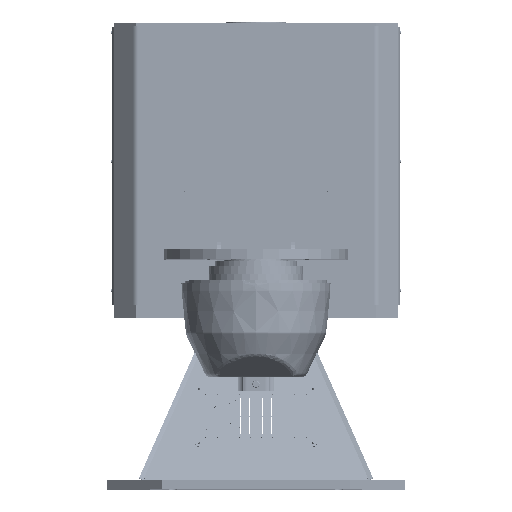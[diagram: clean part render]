
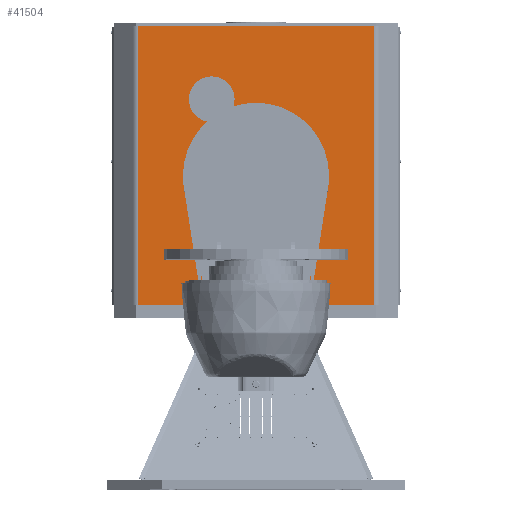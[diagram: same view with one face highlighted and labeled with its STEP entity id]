
A CAD part, top view. The second image highlights one B-rep face of the part: STEP entity #41504.
In plain terms, the highlighted planar face has unit normal (0, 0, 1) as drawn and (0, 0, -1) by its records, which use the part's own axes.
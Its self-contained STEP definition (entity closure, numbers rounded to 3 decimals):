
#40638 = ORIENTED_EDGE ( 'NONE', *, *, #41520, .T. ) ;
#41402 = VERTEX_POINT ( 'NONE', #49305 ) ;
#41420 = EDGE_LOOP ( 'NONE', ( #41534, #41540 ) ) ;
#41424 = VERTEX_POINT ( 'NONE', #49355 ) ;
#41436 = EDGE_CURVE ( 'NONE', #41437, #41402, #49404, .T. ) ;
#41437 = VERTEX_POINT ( 'NONE', #49400 ) ;
#41464 = EDGE_CURVE ( 'NONE', #41466, #41468, #49554, .T. ) ;
#41466 = VERTEX_POINT ( 'NONE', #49535 ) ;
#41468 = VERTEX_POINT ( 'NONE', #49531 ) ;
#41470 = ORIENTED_EDGE ( 'NONE', *, *, #41472, .F. ) ;
#41472 = EDGE_CURVE ( 'NONE', #41468, #41466, #49525, .T. ) ;
#41474 = EDGE_LOOP ( 'NONE', ( #41476, #40638, #41522, #41524 ) ) ;
#41476 = ORIENTED_EDGE ( 'NONE', *, *, #41484, .F. ) ;
#41484 = EDGE_CURVE ( 'NONE', #41486, #41437, #49574, .T. ) ;
#41486 = VERTEX_POINT ( 'NONE', #49567 ) ;
#41504 = ADVANCED_FACE ( 'NONE', ( #49725, #49724, #49722 ), #49819, .F. ) ;
#41520 = EDGE_CURVE ( 'NONE', #41486, #41521, #49881, .T. ) ;
#41521 = VERTEX_POINT ( 'NONE', #49859 ) ;
#41522 = ORIENTED_EDGE ( 'NONE', *, *, #41523, .F. ) ;
#41523 = EDGE_CURVE ( 'NONE', #41402, #41521, #49855, .T. ) ;
#41524 = ORIENTED_EDGE ( 'NONE', *, *, #41436, .F. ) ;
#41534 = ORIENTED_EDGE ( 'NONE', *, *, #41536, .F. ) ;
#41536 = EDGE_CURVE ( 'NONE', #41424, #41538, #49905, .T. ) ;
#41538 = VERTEX_POINT ( 'NONE', #49885 ) ;
#41540 = ORIENTED_EDGE ( 'NONE', *, *, #41542, .F. ) ;
#41542 = EDGE_CURVE ( 'NONE', #41538, #41424, #49996, .T. ) ;
#41543 = EDGE_LOOP ( 'NONE', ( #41546, #41470 ) ) ;
#41546 = ORIENTED_EDGE ( 'NONE', *, *, #41464, .F. ) ;
#49305 = CARTESIAN_POINT ( 'NONE',  ( -318.787, 790., -285. ) ) ;
#49355 = CARTESIAN_POINT ( 'NONE',  ( 69., 592.846, -285. ) ) ;
#49400 = CARTESIAN_POINT ( 'NONE',  ( 318.787, 790., -285. ) ) ;
#49401 = DIRECTION ( 'NONE',  ( -1., 0., 0. ) ) ;
#49402 = VECTOR ( 'NONE', #49401, 1000. ) ;
#49403 = CARTESIAN_POINT ( 'NONE',  ( 327.071, 790., -285. ) ) ;
#49404 = LINE ( 'NONE', #49403, #49402 ) ;
#49518 = DIRECTION ( 'NONE',  ( -1., 0., 0. ) ) ;
#49520 = DIRECTION ( 'NONE',  ( 0., 0., -1. ) ) ;
#49521 = CARTESIAN_POINT ( 'NONE',  ( 0., 385., -285. ) ) ;
#49523 = AXIS2_PLACEMENT_3D ( 'NONE', #49521, #49520, #49518 ) ;
#49525 = CIRCLE ( 'NONE', #49523, 165. ) ;
#49531 = CARTESIAN_POINT ( 'NONE',  ( 165., 385., -285. ) ) ;
#49535 = CARTESIAN_POINT ( 'NONE',  ( -165., 385., -285. ) ) ;
#49547 = DIRECTION ( 'NONE',  ( -1., 0., 0. ) ) ;
#49548 = DIRECTION ( 'NONE',  ( 0., 0., -1. ) ) ;
#49550 = CARTESIAN_POINT ( 'NONE',  ( 0., 385., -285. ) ) ;
#49551 = AXIS2_PLACEMENT_3D ( 'NONE', #49550, #49548, #49547 ) ;
#49554 = CIRCLE ( 'NONE', #49551, 165. ) ;
#49567 = CARTESIAN_POINT ( 'NONE',  ( 318.787, 35., -285. ) ) ;
#49569 = DIRECTION ( 'NONE',  ( 0., 1., 0. ) ) ;
#49570 = VECTOR ( 'NONE', #49569, 1000. ) ;
#49572 = CARTESIAN_POINT ( 'NONE',  ( 318.787, 35., -285. ) ) ;
#49574 = LINE ( 'NONE', #49572, #49570 ) ;
#49722 = FACE_OUTER_BOUND ( 'NONE', #41474, .T. ) ;
#49724 = FACE_BOUND ( 'NONE', #41543, .T. ) ;
#49725 = FACE_BOUND ( 'NONE', #41420, .T. ) ;
#49808 = DIRECTION ( 'NONE',  ( 1., 0., 0. ) ) ;
#49810 = DIRECTION ( 'NONE',  ( 0., 0., 1. ) ) ;
#49811 = CARTESIAN_POINT ( 'NONE',  ( 327.071, 790., -285. ) ) ;
#49813 = AXIS2_PLACEMENT_3D ( 'NONE', #49811, #49810, #49808 ) ;
#49819 = PLANE ( 'NONE',  #49813 ) ;
#49852 = DIRECTION ( 'NONE',  ( 0., -1., 0. ) ) ;
#49853 = VECTOR ( 'NONE', #49852, 1000. ) ;
#49854 = CARTESIAN_POINT ( 'NONE',  ( -318.787, 790., -285. ) ) ;
#49855 = LINE ( 'NONE', #49854, #49853 ) ;
#49859 = CARTESIAN_POINT ( 'NONE',  ( -318.787, 35., -285. ) ) ;
#49862 = DIRECTION ( 'NONE',  ( -1., 0., 0. ) ) ;
#49863 = VECTOR ( 'NONE', #49862, 1000. ) ;
#49866 = CARTESIAN_POINT ( 'NONE',  ( 327.071, 35., -285. ) ) ;
#49881 = LINE ( 'NONE', #49866, #49863 ) ;
#49885 = CARTESIAN_POINT ( 'NONE',  ( 171., 592.846, -285. ) ) ;
#49901 = DIRECTION ( 'NONE',  ( -1., 0., 0. ) ) ;
#49902 = DIRECTION ( 'NONE',  ( 0., 0., -1. ) ) ;
#49903 = CARTESIAN_POINT ( 'NONE',  ( 120., 592.846, -285. ) ) ;
#49904 = AXIS2_PLACEMENT_3D ( 'NONE', #49903, #49902, #49901 ) ;
#49905 = CIRCLE ( 'NONE', #49904, 51. ) ;
#49990 = DIRECTION ( 'NONE',  ( -1., 0., 0. ) ) ;
#49992 = DIRECTION ( 'NONE',  ( 0., 0., -1. ) ) ;
#49994 = CARTESIAN_POINT ( 'NONE',  ( 120., 592.846, -285. ) ) ;
#49995 = AXIS2_PLACEMENT_3D ( 'NONE', #49994, #49992, #49990 ) ;
#49996 = CIRCLE ( 'NONE', #49995, 51. ) ;
